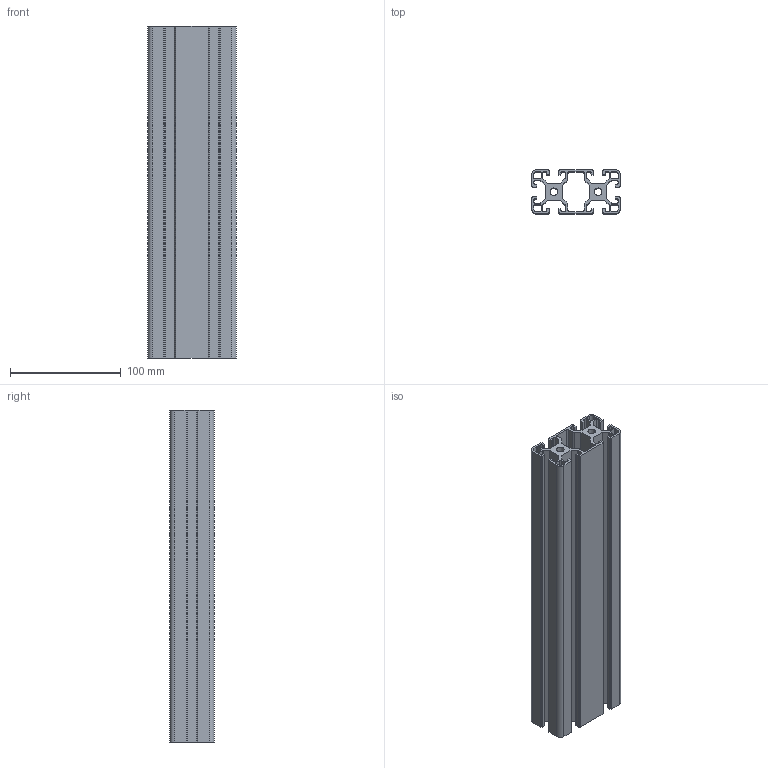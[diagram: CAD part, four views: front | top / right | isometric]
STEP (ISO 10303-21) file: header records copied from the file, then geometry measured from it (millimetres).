
FILE_DESCRIPTION (( 'STEP AP203' ), '1' );
FILE_NAME ('CE-4080Y-8(加厚）.STEP', '2020-11-30T03:25:16', ( '微软用户' ), ( '微软中国' ), 'SwSTEP 2.0', 'SolidWorks 2017', '' );
FILE_SCHEMA (( 'CONFIG_CONTROL_DESIGN' ));
Length unit declared in the file: millimetre
Products named in the file (1): CE-4080Y-8(加厚）
Bounding box: 80 x 40 x 300 mm (x, y, z)
Volume: 317885.1 mm3; surface area: 236540.3 mm2
Topology: 1 solids, 1 shells, 270 faces, 804 edges, 536 vertices
Faces by surface type: plane 142, cylinder 128
Entity records: 9229 total; most frequent: CARTESIAN_POINT 1611, ORIENTED_EDGE 1608, DIRECTION 1602, EDGE_CURVE 804, VECTOR 548, LINE 548, VERTEX_POINT 536, AXIS2_PLACEMENT_3D 527
